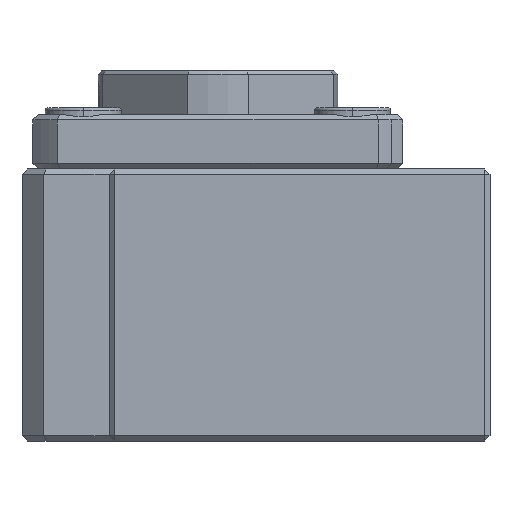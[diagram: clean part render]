
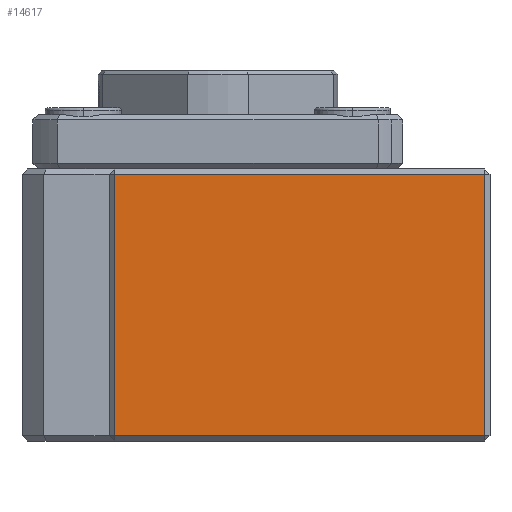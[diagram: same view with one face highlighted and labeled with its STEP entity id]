
A CAD part, left-side view. The second image highlights one B-rep face of the part: STEP entity #14617.
In plain terms, the highlighted planar face has unit normal (-1, 0, 0).
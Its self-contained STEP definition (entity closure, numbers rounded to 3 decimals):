
#1497 = VERTEX_POINT ( 'NONE', #13458 ) ;
#1498 = VERTEX_POINT ( 'NONE', #13459 ) ;
#1499 = VERTEX_POINT ( 'NONE', #13460 ) ;
#1500 = VERTEX_POINT ( 'NONE', #13461 ) ;
#2247 = LINE ( 'NONE', #2248, #6517 ) ;
#2248 = CARTESIAN_POINT ( 'NONE',  ( -30., 9.5, 12.5 ) ) ;
#2249 = DIRECTION ( 'NONE',  ( 0., 0., -1. ) ) ;
#2250 = LINE ( 'NONE', #2251, #6519 ) ;
#2251 = CARTESIAN_POINT ( 'NONE',  ( -30., 10., -12. ) ) ;
#2252 = DIRECTION ( 'NONE',  ( 0., -1., 0. ) ) ;
#2283 = LINE ( 'NONE', #2284, #6523 ) ;
#2284 = CARTESIAN_POINT ( 'NONE',  ( -30., -24.5, 12.5 ) ) ;
#2285 = DIRECTION ( 'NONE',  ( 0., 0., 1. ) ) ;
#2349 = LINE ( 'NONE', #2350, #6527 ) ;
#2350 = CARTESIAN_POINT ( 'NONE',  ( -30., 10., 12. ) ) ;
#2351 = DIRECTION ( 'NONE',  ( 0., 1., 0. ) ) ;
#2610 = PLANE ( 'NONE',  #6601 ) ;
#2611 = CARTESIAN_POINT ( 'NONE',  ( -30., 10., 12.5 ) ) ;
#2612 = DIRECTION ( 'NONE',  ( 1., 0., 0. ) ) ;
#2613 = DIRECTION ( 'NONE',  ( 0., 1., 0. ) ) ;
#2854 = ORIENTED_EDGE ( 'NONE', *, *, #14548, .T. ) ;
#2855 = ORIENTED_EDGE ( 'NONE', *, *, #14555, .T. ) ;
#2856 = ORIENTED_EDGE ( 'NONE', *, *, #14549, .T. ) ;
#2857 = ORIENTED_EDGE ( 'NONE', *, *, #14562, .T. ) ;
#6517 = VECTOR ( 'NONE', #2249, 1000. ) ;
#6519 = VECTOR ( 'NONE', #2252, 1000. ) ;
#6523 = VECTOR ( 'NONE', #2285, 1000. ) ;
#6527 = VECTOR ( 'NONE', #2351, 1000. ) ;
#6596 = FACE_OUTER_BOUND ( 'NONE', #11832, .T. ) ;
#6601 = AXIS2_PLACEMENT_3D ( 'NONE', #2611, #2612, #2613 ) ;
#11832 = EDGE_LOOP ( 'NONE', ( #2854, #2856, #2855, #2857 ) ) ;
#13458 = CARTESIAN_POINT ( 'NONE',  ( -30., 9.5, 12. ) ) ;
#13459 = CARTESIAN_POINT ( 'NONE',  ( -30., 9.5, -12. ) ) ;
#13460 = CARTESIAN_POINT ( 'NONE',  ( -30., -24.5, -12. ) ) ;
#13461 = CARTESIAN_POINT ( 'NONE',  ( -30., -24.5, 12. ) ) ;
#14548 = EDGE_CURVE ( 'NONE', #1497, #1498, #2247, .T. ) ;
#14549 = EDGE_CURVE ( 'NONE', #1498, #1499, #2250, .T. ) ;
#14555 = EDGE_CURVE ( 'NONE', #1499, #1500, #2283, .T. ) ;
#14562 = EDGE_CURVE ( 'NONE', #1500, #1497, #2349, .T. ) ;
#14617 = ADVANCED_FACE ( 'NONE', ( #6596 ), #2610, .F. ) ;
